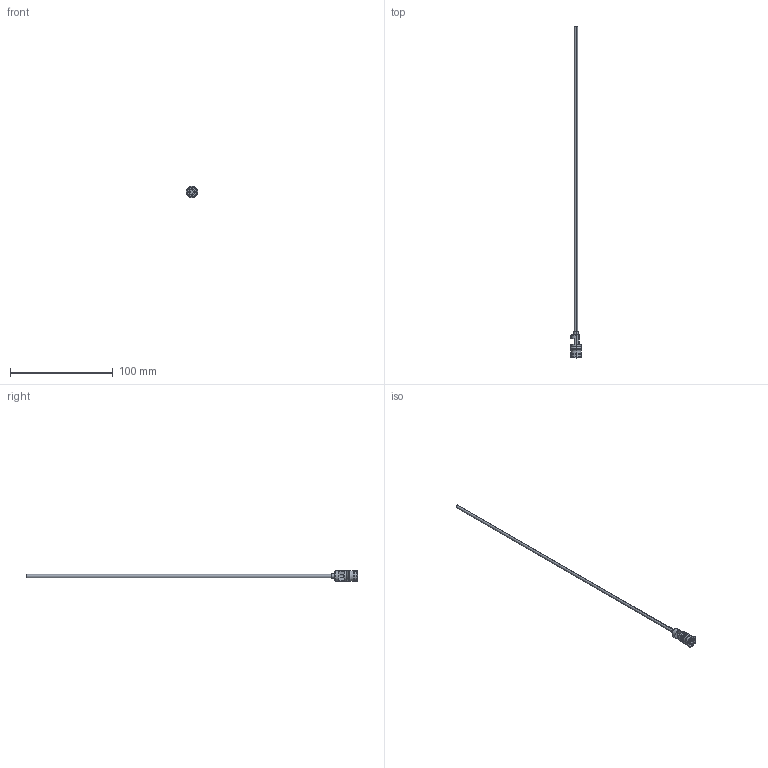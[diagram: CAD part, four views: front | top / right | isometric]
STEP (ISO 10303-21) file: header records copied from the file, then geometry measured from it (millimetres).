
FILE_DESCRIPTION (( 'STEP AP203' ), '1' );
FILE_NAME ('RF-10Fx300-3.STEP', '2015-11-19T16:08:11', ( 'Balzi' ), ( '' ), 'SwSTEP 2.0', 'SolidWorks 2015', '' );
FILE_SCHEMA (( 'CONFIG_CONTROL_DESIGN' ));
Length unit declared in the file: millimetre
Products named in the file (1): RF-10Fx300-3
Bounding box: 11.3 x 322.5 x 11.3 mm (x, y, z)
Volume: 1895 mm3; surface area: 6467.3 mm2
Topology: 1 solids, 1 shells, 71 faces, 164 edges, 102 vertices
Faces by surface type: plane 26, cylinder 25, cone 12, torus 8
Entity records: 2114 total; most frequent: DIRECTION 385, CARTESIAN_POINT 357, ORIENTED_EDGE 328, EDGE_CURVE 164, AXIS2_PLACEMENT_3D 154, VERTEX_POINT 102, CIRCLE 82, EDGE_LOOP 80
